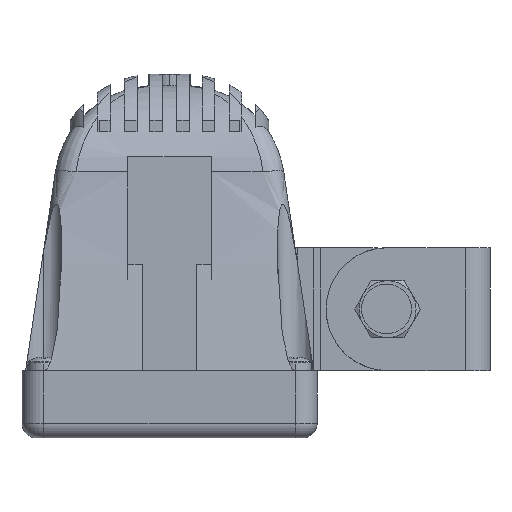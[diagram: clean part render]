
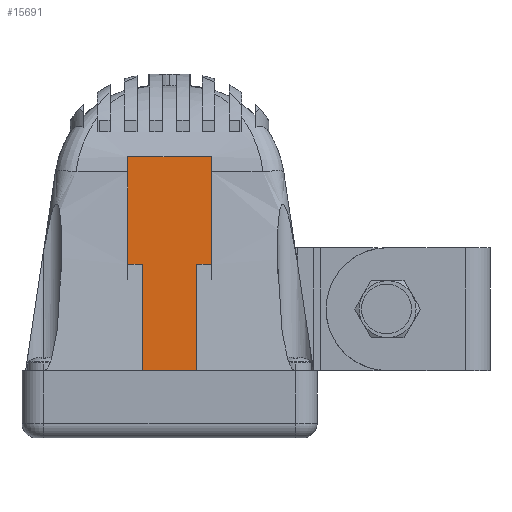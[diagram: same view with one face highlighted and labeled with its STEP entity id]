
A CAD part, left-side view. The second image highlights one B-rep face of the part: STEP entity #15691.
In plain terms, the highlighted planar face has unit normal (-1, 0, 0).
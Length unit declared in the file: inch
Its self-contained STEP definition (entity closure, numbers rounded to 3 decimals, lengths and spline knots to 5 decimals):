
#1945 = CARTESIAN_POINT ( 'NONE',  ( -0.765, 0.29, 0.465 ) ) ;
#2514 = CARTESIAN_POINT ( 'NONE',  ( -0.765, 0.29, 1.94428 ) ) ;
#3018 = PLANE ( 'NONE',  #3981 ) ;
#3191 = CARTESIAN_POINT ( 'NONE',  ( -0.765, -0.29, 1.94428 ) ) ;
#3799 = CARTESIAN_POINT ( 'NONE',  ( -0.765, -0.29, 1.94428 ) ) ;
#3981 = AXIS2_PLACEMENT_3D ( 'NONE', #25272, #10453, #27757 ) ;
#4337 = CARTESIAN_POINT ( 'NONE',  ( -0.765, -0.29, 0.465 ) ) ;
#6512 = ORIENTED_EDGE ( 'NONE', *, *, #13039, .F. ) ;
#6945 = CARTESIAN_POINT ( 'NONE',  ( -0.765, -0.29, 0.465 ) ) ;
#6983 = DIRECTION ( 'NONE',  ( 0., 0., -1. ) ) ;
#8282 = VECTOR ( 'NONE', #21632, 39.37008 ) ;
#8760 = LINE ( 'NONE', #17336, #27706 ) ;
#9923 = ORIENTED_EDGE ( 'NONE', *, *, #16395, .F. ) ;
#10453 = DIRECTION ( 'NONE',  ( -1., 0., 0. ) ) ;
#11158 = VERTEX_POINT ( 'NONE', #2514 ) ;
#12612 = FACE_OUTER_BOUND ( 'NONE', #29075, .T. ) ;
#13039 = EDGE_CURVE ( 'NONE', #11158, #31908, #27176, .T. ) ;
#13287 = LINE ( 'NONE', #4337, #8282 ) ;
#13586 = CARTESIAN_POINT ( 'NONE',  ( -0.765, 0.09667, 1.94428 ) ) ;
#15691 = ADVANCED_FACE ( 'NONE', ( #12612 ), #3018, .T. ) ;
#16395 = EDGE_CURVE ( 'NONE', #31908, #17520, #8760, .T. ) ;
#17336 = CARTESIAN_POINT ( 'NONE',  ( -0.765, -0.29, 2.43539 ) ) ;
#17520 = VERTEX_POINT ( 'NONE', #6945 ) ;
#18314 = LINE ( 'NONE', #26770, #24116 ) ;
#18515 = VERTEX_POINT ( 'NONE', #1945 ) ;
#18595 = CARTESIAN_POINT ( 'NONE',  ( -0.765, -0.09667, 1.94428 ) ) ;
#21632 = DIRECTION ( 'NONE',  ( 0., 1., 0. ) ) ;
#24116 = VECTOR ( 'NONE', #6983, 39.37008 ) ;
#24538 = EDGE_CURVE ( 'NONE', #17520, #18515, #13287, .T. ) ;
#24812 = DIRECTION ( 'NONE',  ( 0., 0., -1. ) ) ;
#25181 = ORIENTED_EDGE ( 'NONE', *, *, #24538, .F. ) ;
#25272 = CARTESIAN_POINT ( 'NONE',  ( -0.765, -0.29, 2.43539 ) ) ;
#26770 = CARTESIAN_POINT ( 'NONE',  ( -0.765, 0.29, 2.43539 ) ) ;
#26794 = EDGE_CURVE ( 'NONE', #11158, #18515, #18314, .T. ) ;
#27176 = B_SPLINE_CURVE_WITH_KNOTS ( 'NONE', 3,
 ( #30947, #13586, #18595, #3799 ),
 .UNSPECIFIED., .F., .F.,
 ( 4, 4 ),
 ( 0., 0.01473 ),
 .UNSPECIFIED. ) ;
#27706 = VECTOR ( 'NONE', #24812, 39.37008 ) ;
#27757 = DIRECTION ( 'NONE',  ( 0., -1., 0. ) ) ;
#28646 = ORIENTED_EDGE ( 'NONE', *, *, #26794, .T. ) ;
#29075 = EDGE_LOOP ( 'NONE', ( #25181, #9923, #6512, #28646 ) ) ;
#30947 = CARTESIAN_POINT ( 'NONE',  ( -0.765, 0.29, 1.94428 ) ) ;
#31908 = VERTEX_POINT ( 'NONE', #3191 ) ;
